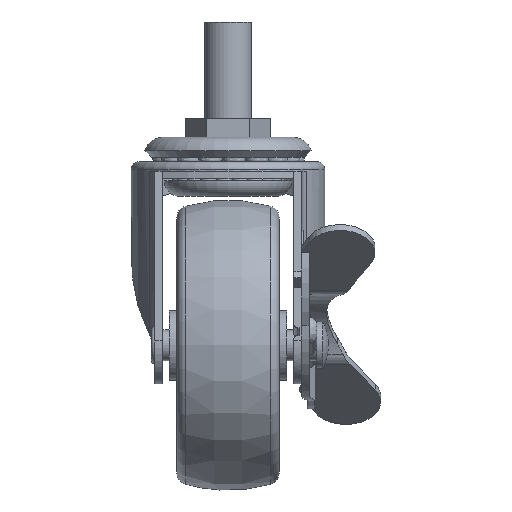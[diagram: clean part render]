
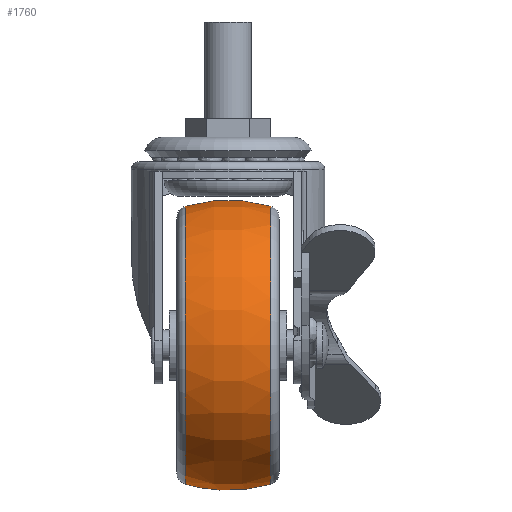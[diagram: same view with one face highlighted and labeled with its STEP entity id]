
A CAD part, left-side view. The second image highlights one B-rep face of the part: STEP entity #1760.
In plain terms, the highlighted free-form (B-spline) face has degree [3, 3] with [4, 7] control points.
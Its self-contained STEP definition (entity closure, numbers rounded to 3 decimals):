
#1339=(
BOUNDED_SURFACE()
B_SPLINE_SURFACE(3,3,((#11912,#11913,#11914,#11915,#11916,#11917,#11918),
(#11919,#11920,#11921,#11922,#11923,#11924,#11925),(#11926,#11927,#11928,
#11929,#11930,#11931,#11932),(#11933,#11934,#11935,#11936,#11937,#11938,
#11939)),.UNSPECIFIED.,.F.,.T.,.F.)
B_SPLINE_SURFACE_WITH_KNOTS((4,4),(1,3,3,3,1),(0.,1.),(-0.5,0.,0.5,1.,1.5),
 .UNSPECIFIED.)
GEOMETRIC_REPRESENTATION_ITEM()
RATIONAL_B_SPLINE_SURFACE(((1.,0.333,0.333,1.,0.333,
0.333,1.),(0.974,0.325,0.325,
0.974,0.325,0.325,0.974),
(0.974,0.325,0.325,0.974,
0.325,0.325,0.974),(1.,0.333,
0.333,1.,0.333,0.333,1.)))
REPRESENTATION_ITEM('')
SURFACE()
);
#1760=ADVANCED_FACE('',(#2452,#2453),#1339,.T.);
#2452=FACE_BOUND('',#2704,.T.);
#2453=FACE_BOUND('',#2705,.T.);
#2704=EDGE_LOOP('',(#3293));
#2705=EDGE_LOOP('',(#3294));
#3293=ORIENTED_EDGE('',*,*,#6071,.T.);
#3294=ORIENTED_EDGE('',*,*,#6072,.T.);
#5355=VERTEX_POINT('',#11909);
#5356=VERTEX_POINT('',#11911);
#6071=EDGE_CURVE('',#5355,#5355,#7064,.T.);
#6072=EDGE_CURVE('',#5356,#5356,#7065,.T.);
#7064=CIRCLE('',#7319,35.95);
#7065=CIRCLE('',#7320,35.95);
#7319=AXIS2_PLACEMENT_3D('',#11908,#8036,#8037);
#7320=AXIS2_PLACEMENT_3D('',#11910,#8038,#8039);
#8036=DIRECTION('',(0.,1.,0.));
#8037=DIRECTION('',(0.,0.,1.));
#8038=DIRECTION('',(0.,-1.,0.));
#8039=DIRECTION('',(0.,0.,-1.));
#11908=CARTESIAN_POINT('',(-29.,-11.027,-83.6));
#11909=CARTESIAN_POINT('',(-29.,-11.027,-47.65));
#11910=CARTESIAN_POINT('',(-29.,11.027,-83.6));
#11911=CARTESIAN_POINT('',(-29.,11.027,-119.55));
#11912=CARTESIAN_POINT('',(-29.,-11.027,-119.55));
#11913=CARTESIAN_POINT('',(42.9,-11.027,-119.55));
#11914=CARTESIAN_POINT('',(42.9,-11.027,-47.65));
#11915=CARTESIAN_POINT('',(-29.,-11.027,-47.65));
#11916=CARTESIAN_POINT('',(-100.9,-11.027,-47.65));
#11917=CARTESIAN_POINT('',(-100.9,-11.027,-119.55));
#11918=CARTESIAN_POINT('',(-29.,-11.027,-119.55));
#11919=CARTESIAN_POINT('',(-29.,-3.773,-121.63));
#11920=CARTESIAN_POINT('',(47.061,-3.773,-121.63));
#11921=CARTESIAN_POINT('',(47.061,-3.773,-45.57));
#11922=CARTESIAN_POINT('',(-29.,-3.773,-45.57));
#11923=CARTESIAN_POINT('',(-105.061,-3.773,-45.57));
#11924=CARTESIAN_POINT('',(-105.061,-3.773,-121.63));
#11925=CARTESIAN_POINT('',(-29.,-3.773,-121.63));
#11926=CARTESIAN_POINT('',(-29.,3.773,-121.63));
#11927=CARTESIAN_POINT('',(47.061,3.773,-121.63));
#11928=CARTESIAN_POINT('',(47.061,3.773,-45.57));
#11929=CARTESIAN_POINT('',(-29.,3.773,-45.57));
#11930=CARTESIAN_POINT('',(-105.061,3.773,-45.57));
#11931=CARTESIAN_POINT('',(-105.061,3.773,-121.63));
#11932=CARTESIAN_POINT('',(-29.,3.773,-121.63));
#11933=CARTESIAN_POINT('',(-29.,11.027,-119.55));
#11934=CARTESIAN_POINT('',(42.9,11.027,-119.55));
#11935=CARTESIAN_POINT('',(42.9,11.027,-47.65));
#11936=CARTESIAN_POINT('',(-29.,11.027,-47.65));
#11937=CARTESIAN_POINT('',(-100.9,11.027,-47.65));
#11938=CARTESIAN_POINT('',(-100.9,11.027,-119.55));
#11939=CARTESIAN_POINT('',(-29.,11.027,-119.55));
